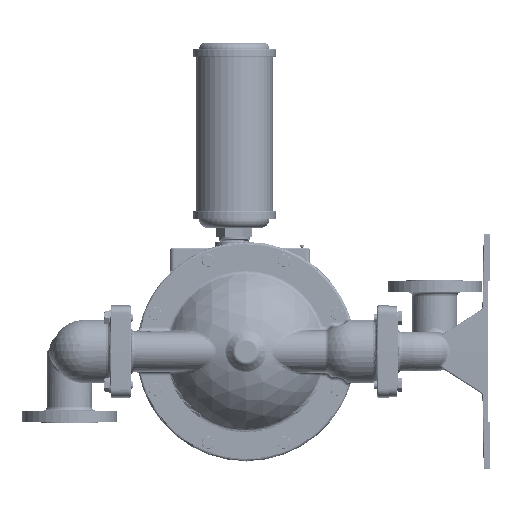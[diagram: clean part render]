
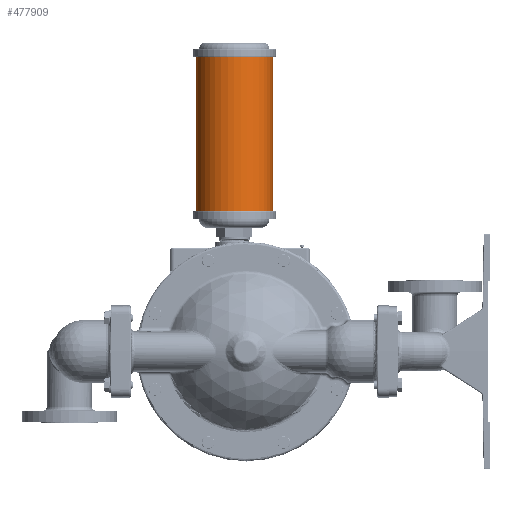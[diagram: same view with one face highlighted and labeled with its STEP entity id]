
A CAD part, left-side view. The second image highlights one B-rep face of the part: STEP entity #477909.
In plain terms, the highlighted cylindrical face has radius 61.722 mm (diameter 123.444 mm), a partial arc.
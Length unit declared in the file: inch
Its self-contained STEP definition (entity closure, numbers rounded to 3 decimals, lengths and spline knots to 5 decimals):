
#7133 = VERTEX_POINT ( 'NONE', #133147 ) ;
#14578 = VERTEX_POINT ( 'NONE', #462804 ) ;
#41943 = EDGE_CURVE ( 'NONE', #7133, #558009, #274903, .T. ) ;
#61258 = DIRECTION ( 'NONE',  ( 0., 1., 0. ) ) ;
#75344 = EDGE_LOOP ( 'NONE', ( #205307, #357331, #106754, #244858 ) ) ;
#98860 = AXIS2_PLACEMENT_3D ( 'NONE', #153298, #514775, #520785 ) ;
#98942 = CARTESIAN_POINT ( 'NONE',  ( 0., -1.68, 8.905 ) ) ;
#104203 = CARTESIAN_POINT ( 'NONE',  ( 0., 0.75, 8.905 ) ) ;
#106754 = ORIENTED_EDGE ( 'NONE', *, *, #41943, .F. ) ;
#129077 = EDGE_CURVE ( 'NONE', #14578, #7133, #428309, .T. ) ;
#133147 = CARTESIAN_POINT ( 'NONE',  ( 0., 3.18, 18.685 ) ) ;
#153298 = CARTESIAN_POINT ( 'NONE',  ( 0., 0.75, 18.685 ) ) ;
#173871 = DIRECTION ( 'NONE',  ( 0., 0., -1. ) ) ;
#182911 = CARTESIAN_POINT ( 'NONE',  ( 0., 0.75, 20.1725 ) ) ;
#194260 = CARTESIAN_POINT ( 'NONE',  ( 0., -1.68, 8.905 ) ) ;
#195640 = DIRECTION ( 'NONE',  ( 0., 0., 1. ) ) ;
#205307 = ORIENTED_EDGE ( 'NONE', *, *, #257271, .T. ) ;
#219433 = VECTOR ( 'NONE', #233714, 39.37008 ) ;
#233714 = DIRECTION ( 'NONE',  ( 0., 0., 1. ) ) ;
#244858 = ORIENTED_EDGE ( 'NONE', *, *, #129077, .F. ) ;
#257271 = EDGE_CURVE ( 'NONE', #14578, #317185, #465291, .T. ) ;
#271753 = CYLINDRICAL_SURFACE ( 'NONE', #592982, 2.43 ) ;
#274903 = CIRCLE ( 'NONE', #98860, 2.43 ) ;
#277758 = FACE_OUTER_BOUND ( 'NONE', #75344, .T. ) ;
#278223 = VECTOR ( 'NONE', #195640, 39.37008 ) ;
#283271 = EDGE_CURVE ( 'NONE', #317185, #558009, #383572, .T. ) ;
#317185 = VERTEX_POINT ( 'NONE', #194260 ) ;
#357331 = ORIENTED_EDGE ( 'NONE', *, *, #283271, .T. ) ;
#369670 = DIRECTION ( 'NONE',  ( 0., -1., 0. ) ) ;
#383572 = LINE ( 'NONE', #98942, #219433 ) ;
#428309 = LINE ( 'NONE', #606042, #278223 ) ;
#462804 = CARTESIAN_POINT ( 'NONE',  ( 0., 3.18, 8.905 ) ) ;
#465291 = CIRCLE ( 'NONE', #505009, 2.43 ) ;
#467485 = CARTESIAN_POINT ( 'NONE',  ( 0., -1.68, 18.685 ) ) ;
#477909 = ADVANCED_FACE ( 'NONE', ( #277758 ), #271753, .T. ) ;
#505009 = AXIS2_PLACEMENT_3D ( 'NONE', #104203, #526651, #61258 ) ;
#514775 = DIRECTION ( 'NONE',  ( 0., 0., 1. ) ) ;
#520785 = DIRECTION ( 'NONE',  ( 0., 1., 0. ) ) ;
#526651 = DIRECTION ( 'NONE',  ( 0., 0., 1. ) ) ;
#558009 = VERTEX_POINT ( 'NONE', #467485 ) ;
#592982 = AXIS2_PLACEMENT_3D ( 'NONE', #182911, #173871, #369670 ) ;
#606042 = CARTESIAN_POINT ( 'NONE',  ( 0., 3.18, 8.905 ) ) ;
